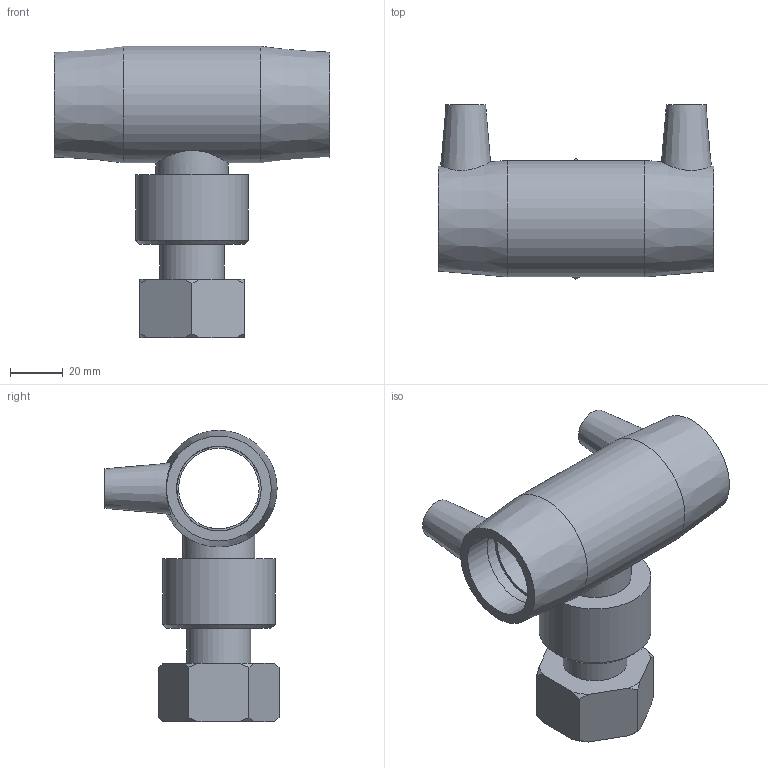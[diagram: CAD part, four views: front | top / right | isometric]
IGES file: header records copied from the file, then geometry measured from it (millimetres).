
Global section: file name: 494404032010.ipt; native system: Autodesk Inventor 2015; preprocessor: unknown; author: KIM; date: 20190331.185844; units: millimetre
Bounding box: 104 x 65.72 x 110 mm (x, y, z)
Volume: 128472.1 mm3; surface area: 44787.8 mm2
Topology: 1 solids, 1 shells, 64 faces, 156 edges, 108 vertices
Faces by surface type: plane 25, cone 17, revolution 12, cylinder 10
Full cylindrical faces by diameter (mm): 4.8 x2, 24.233 x2, 27.262 x1, 42.407 x1, 44 x1
